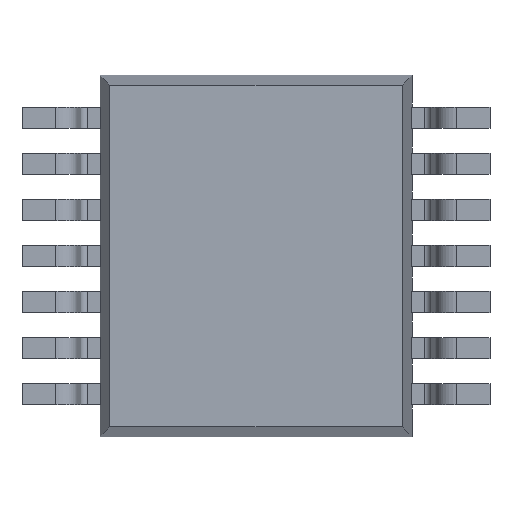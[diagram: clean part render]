
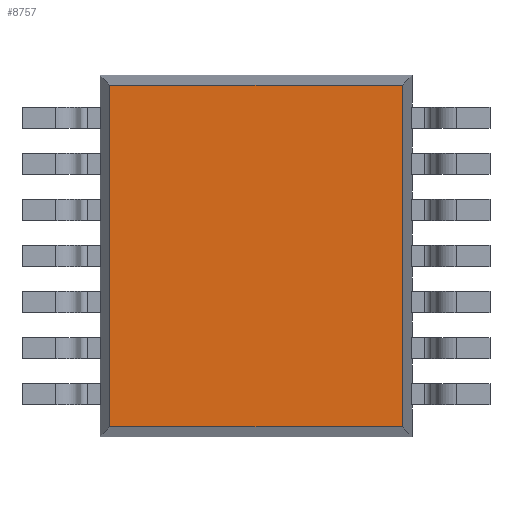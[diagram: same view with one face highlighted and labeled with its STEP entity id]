
A CAD part, front view. The second image highlights one B-rep face of the part: STEP entity #8757.
In plain terms, the highlighted planar face has unit normal (0, -1, 0).
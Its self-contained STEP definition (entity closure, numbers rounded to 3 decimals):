
#592 = DIRECTION ( 'NONE',  ( -1., 0., 0. ) ) ;
#596 = CARTESIAN_POINT ( 'NONE',  ( 2.2, 0.1, 2.409 ) ) ;
#597 = CARTESIAN_POINT ( 'NONE',  ( 2.2, 0.1, -2.409 ) ) ;
#602 = DIRECTION ( 'NONE',  ( 1., 0., 0. ) ) ;
#917 = CARTESIAN_POINT ( 'NONE',  ( -2.059, 0.1, 2.55 ) ) ;
#966 = CARTESIAN_POINT ( 'NONE',  ( 2.059, 0.1, 2.55 ) ) ;
#967 = DIRECTION ( 'NONE',  ( 0., 0., 1. ) ) ;
#1005 = DIRECTION ( 'NONE',  ( 0., 0., -1. ) ) ;
#1239 = CARTESIAN_POINT ( 'NONE',  ( -2.059, 0.1, -2.409 ) ) ;
#1283 = CARTESIAN_POINT ( 'NONE',  ( 2.059, 0.1, 2.409 ) ) ;
#1294 = CARTESIAN_POINT ( 'NONE',  ( -2.059, 0.1, 2.409 ) ) ;
#1299 = CARTESIAN_POINT ( 'NONE',  ( 2.059, 0.1, -2.409 ) ) ;
#1649 = LINE ( 'NONE', #597, #1655 ) ;
#1651 = LINE ( 'NONE', #596, #1653 ) ;
#1653 = VECTOR ( 'NONE', #592, 1000. ) ;
#1655 = VECTOR ( 'NONE', #602, 1000. ) ;
#1944 = LINE ( 'NONE', #917, #1992 ) ;
#1952 = LINE ( 'NONE', #966, #1955 ) ;
#1955 = VECTOR ( 'NONE', #967, 1000. ) ;
#1992 = VECTOR ( 'NONE', #1005, 1000. ) ;
#2336 = FACE_OUTER_BOUND ( 'NONE', #5761, .T. ) ;
#2583 = PLANE ( 'NONE',  #3739 ) ;
#2585 = CARTESIAN_POINT ( 'NONE',  ( 0., 0.1, 0. ) ) ;
#2587 = DIRECTION ( 'NONE',  ( 0., 1., 0. ) ) ;
#2588 = DIRECTION ( 'NONE',  ( 0., 0., 1. ) ) ;
#3739 = AXIS2_PLACEMENT_3D ( 'NONE', #2585, #2587, #2588 ) ;
#5761 = EDGE_LOOP ( 'NONE', ( #9253, #8846, #8845, #8844 ) ) ;
#6801 = EDGE_CURVE ( 'NONE', #7910, #7921, #1651, .T. ) ;
#6802 = EDGE_CURVE ( 'NONE', #7861, #7927, #1649, .T. ) ;
#6968 = EDGE_CURVE ( 'NONE', #7927, #7910, #1952, .T. ) ;
#6987 = EDGE_CURVE ( 'NONE', #7921, #7861, #1944, .T. ) ;
#7861 = VERTEX_POINT ( 'NONE', #1239 ) ;
#7910 = VERTEX_POINT ( 'NONE', #1283 ) ;
#7921 = VERTEX_POINT ( 'NONE', #1294 ) ;
#7927 = VERTEX_POINT ( 'NONE', #1299 ) ;
#8757 = ADVANCED_FACE ( 'NONE', ( #2336 ), #2583, .F. ) ;
#8844 = ORIENTED_EDGE ( 'NONE', *, *, #6801, .T. ) ;
#8845 = ORIENTED_EDGE ( 'NONE', *, *, #6968, .T. ) ;
#8846 = ORIENTED_EDGE ( 'NONE', *, *, #6802, .T. ) ;
#9253 = ORIENTED_EDGE ( 'NONE', *, *, #6987, .T. ) ;
